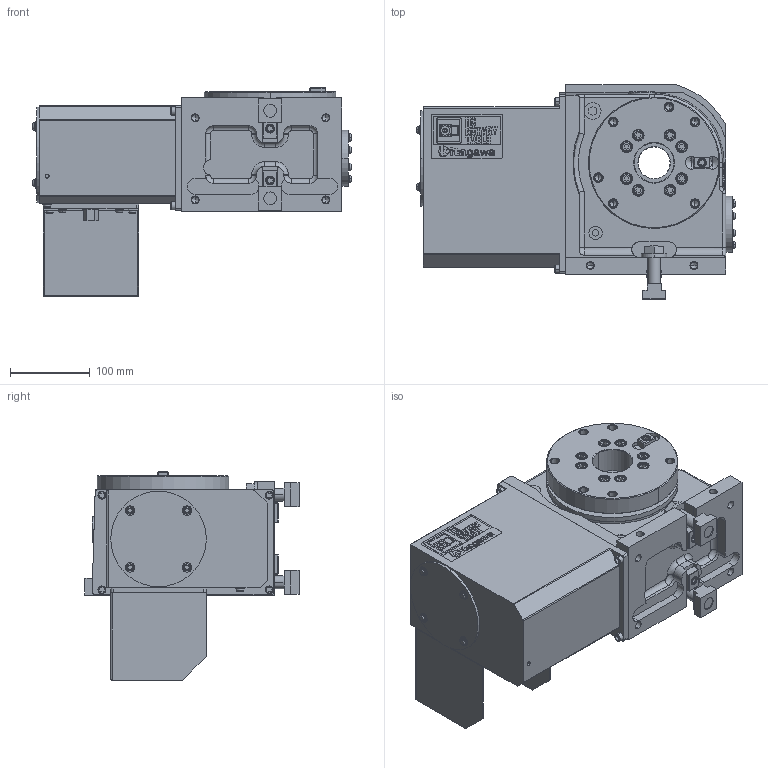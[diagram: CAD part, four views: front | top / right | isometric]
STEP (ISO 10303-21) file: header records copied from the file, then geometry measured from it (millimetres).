
FILE_DESCRIPTION (( 'STEP AP214' ), '1' );
FILE_NAME ('MX160LAF.STEP', '2019-12-10T04:58:43', ( '' ), ( '' ), 'SwSTEP 2.0', 'SolidWorks 2017', '' );
FILE_SCHEMA (( 'AUTOMOTIVE_DESIGN' ));
Length unit declared in the file: millimetre
Products named in the file (13): MX160LA00僋儈僞僥(61E500341); テーブル(61E8042423)MX160LA00; 儂儞僞僀ASSY(61E1127397)MX160L00; MX160LAF; CLAMPING PARTS(61E450898)結合; MX160LAFホンタイ; コネクタカバー(61E363968); コネクタプレート(61E4461165); キタガワシール; SMC KQ2E06-02; 僇僶乕丂俹(61E4458212)MR160LAF01; モータケース(61E2642130)MX160LAS04; ガイドブロック(61M4197783)
Assembly tree (14 placements, depth 4):
  MX160LAF
    MX160LAFホンタイ
      MX160LA00僋儈僞僥(61E500341)
        儂儞僞僀ASSY(61E1127397)MX160L00
        テーブル(61E8042423)MX160LA00
      ガイドブロック(61M4197783)  x2
      モータケース(61E2642130)MX160LAS04
      僇僶乕丂俹(61E4458212)MR160LAF01
      SMC KQ2E06-02
      キタガワシール
      コネクタプレート(61E4461165)
      コネクタカバー(61E363968)
    CLAMPING PARTS(61E450898)結合  x2
Bounding box: 399.3 x 269 x 262 mm (x, y, z)
Volume: 10032503.1 mm3; surface area: 741214.3 mm2
Topology: 12 solids, 13 shells, 2755 faces, 7246 edges, 4700 vertices
Faces by surface type: plane 2005, cylinder 524, cone 167, torus 50, bspline 7, sphere 2
Entity records: 91189 total; most frequent: CARTESIAN_POINT 14976, ORIENTED_EDGE 14048, DIRECTION 13558, EDGE_CURVE 7024, LINE 5746, VECTOR 5746, VERTEX_POINT 4602, AXIS2_PLACEMENT_3D 3906
